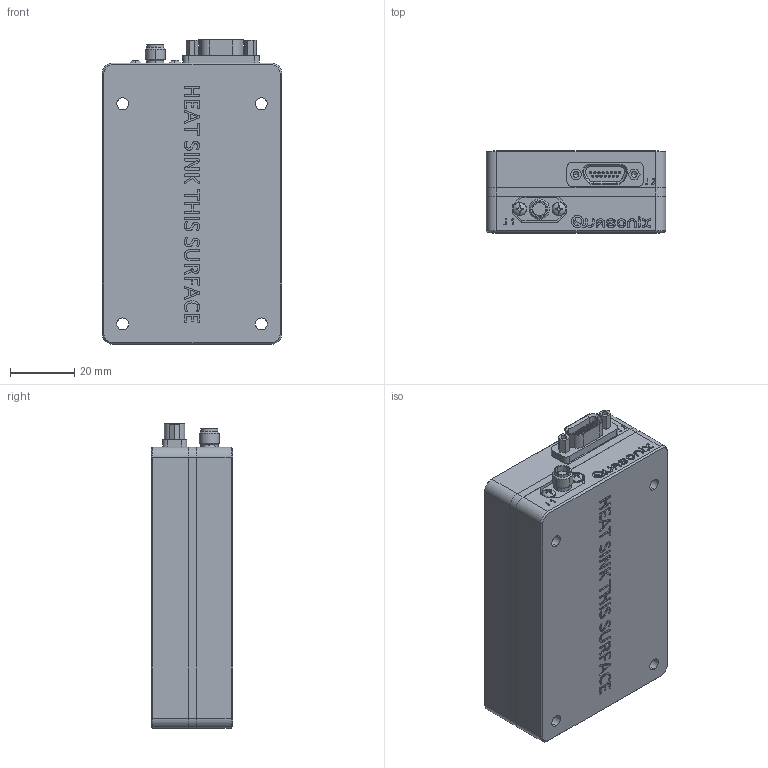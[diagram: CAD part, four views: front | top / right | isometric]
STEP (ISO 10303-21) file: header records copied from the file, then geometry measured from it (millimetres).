
FILE_DESCRIPTION (( 'STEP AP203' ), '1' );
FILE_NAME ('QS-TX-08CRXXX.STEP', '2025-01-23T11:29:47', ( '' ), ( '' ), 'SwSTEP 2.0', 'SolidWorks 2023', '' );
FILE_SCHEMA (( 'CONFIG_CONTROL_DESIGN' ));
Length unit declared in the file: inch
Products named in the file (1): QS-TX-08CRXXX
Bounding box: 55.88 x 25.4 x 94.95 mm (x, y, z)
Volume: 123122.6 mm3; surface area: 39474.3 mm2
Topology: 9 solids, 9 shells, 843 faces, 2160 edges, 1421 vertices
Faces by surface type: plane 342, bspline 284, cylinder 180, cone 25, torus 8, sphere 4
Entity records: 35907 total; most frequent: CARTESIAN_POINT 16861, ORIENTED_EDGE 4316, DIRECTION 3142, EDGE_CURVE 2158, VERTEX_POINT 1421, LINE 1154, VECTOR 1154, AXIS2_PLACEMENT_3D 994
